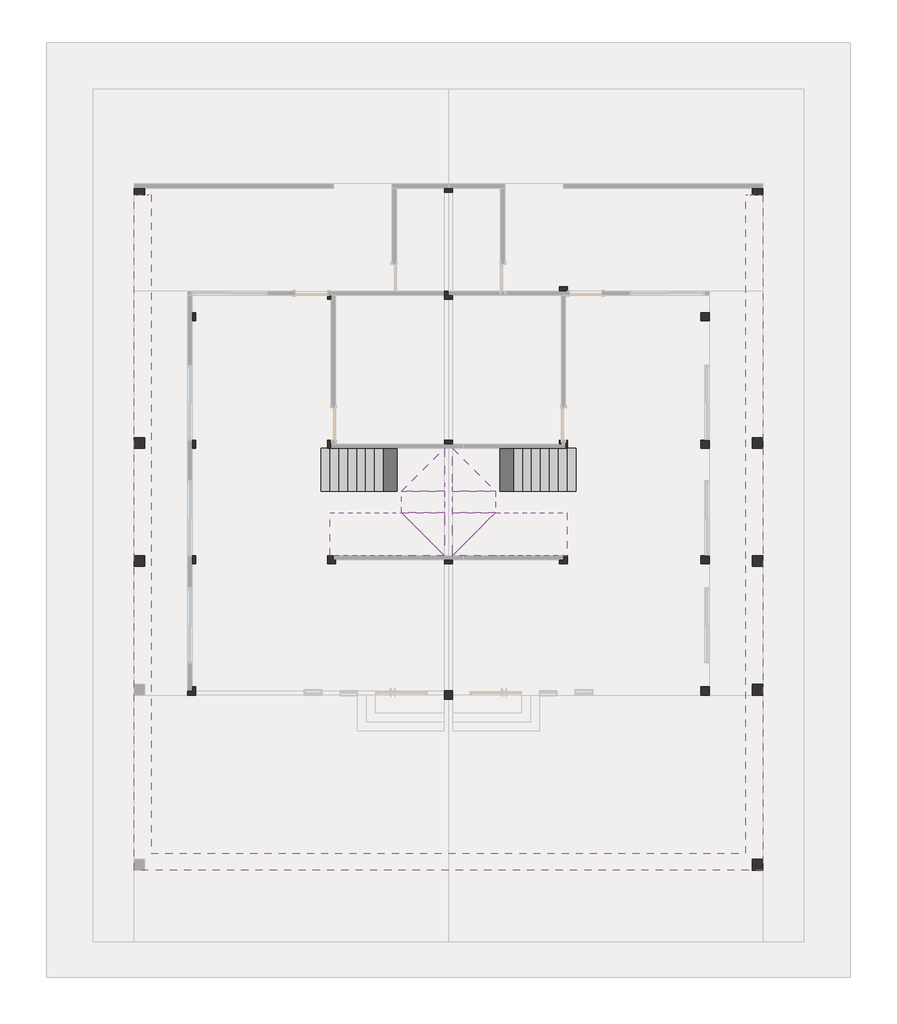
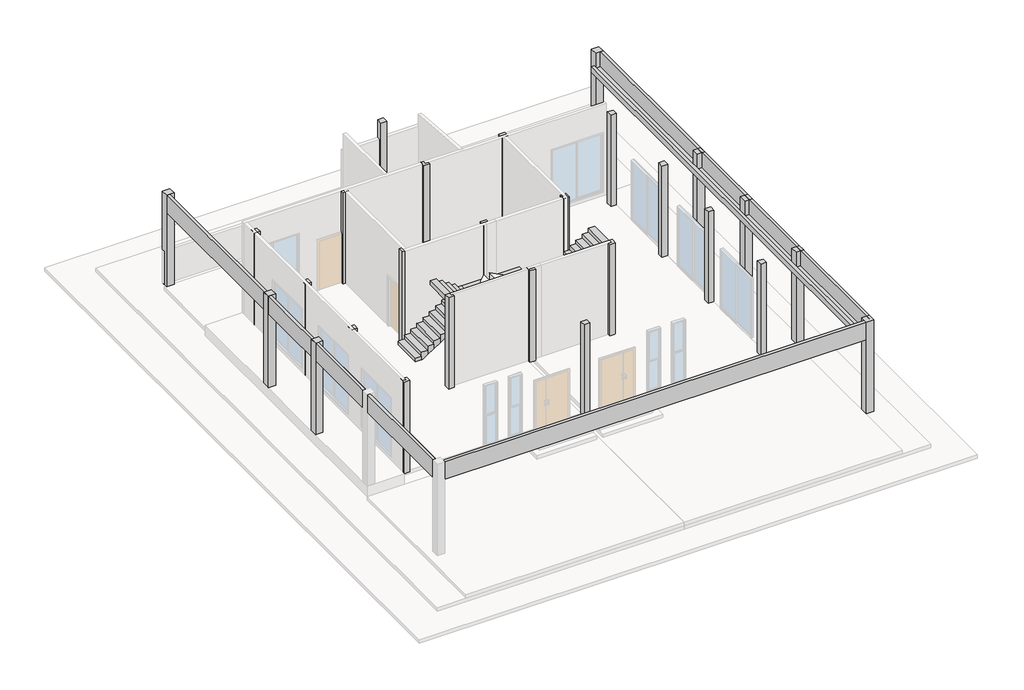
# One storey, part 2 of 2: 27 columns, 6 stair flights, 4 slabs, 1 proxy.
"""IFC4 building model written with IfcOpenShell, lengths in millimetres."""

from ifc_helpers import new_model, si_unit, origin, place, context, project, spatial, faceted_brep, transform, mapped, element, save
from components import generic_models_e7bdc071, z1_a591984b, z1_a0f7b782, z2_c92565be, z2_bccf5c95

model = new_model("IFC4")

# Units and contexts
model_context = context("Model", 3, world=origin())
ifc_project = project(units=[si_unit("LENGTHUNIT", "METRE", prefix="MILLI")], contexts=[model_context])

# Site, building, storey
site = spatial("IfcSite", under=ifc_project)
building = spatial("IfcBuilding", under=site)
storey = spatial("IfcBuildingStorey", under=building, Name="标高 1", Elevation=0.0)

# Proxy
placement = place(None, origin())
generic_models_shape = generic_models_e7bdc071(model_context)
element("IfcBuildingElementProxy", 1, Name="常规模型 1 : 常规模型 1", ObjectType="常规模型 1 : 常规模型 1", at=placement, inside=storey, context=model_context, shape_type="MappedRepresentation", body=[
    mapped(generic_models_shape, transform((0.0, 0.0, 0.0), x_axis=(1.0, 0.0, 0.0), y_axis=(0.0, 1.0, 0.0), z_axis=(0.0, 0.0, 1.0))),
])

# Columns
z1_shape = z1_a591984b(model_context)
element("IfcColumn", 2, ObjectType="混凝土 - 矩形 - 柱 : Z1", at=placement, inside=storey, context=model_context, shape_type="MappedRepresentation", body=[
    mapped(z1_shape, transform((-7795.3991115, 3421.4406182, 0.0), x_axis=(1.0, 0.0, 0.0), y_axis=(0.0, 1.0, 0.0), z_axis=(0.0, 0.0, 1.0))),
])
element("IfcColumn", 3, ObjectType="混凝土 - 矩形 - 柱 : Z1", at=placement, inside=storey, context=model_context, shape_type="MappedRepresentation", body=[
    mapped(z1_shape, transform((-7795.3991115, 6721.4406182, 0.0), x_axis=(1.0, 0.0, 0.0), y_axis=(0.0, 1.0, 0.0), z_axis=(0.0, 0.0, 1.0))),
])
element("IfcColumn", 4, ObjectType="混凝土 - 矩形 - 柱 : Z1", at=placement, inside=storey, context=model_context, shape_type="MappedRepresentation", body=[
    mapped(z1_shape, transform((-7795.3991115, 13821.4406182, 0.0), x_axis=(1.0, 0.0, 0.0), y_axis=(0.0, 1.0, 0.0), z_axis=(0.0, 0.0, 1.0))),
])
z1_2_shape = z1_a0f7b782(model_context)
element("IfcColumn", 5, ObjectType="混凝土 - 矩形 - 柱 : Z1", at=placement, inside=storey, context=model_context, shape_type="MappedRepresentation", body=[
    mapped(z1_2_shape, transform((9504.6008885, -5078.5593818, 0.0), x_axis=(-1.0, 0.0, 0.0), y_axis=(0.0, -1.0, 0.0), z_axis=(0.0, 0.0, 1.0))),
])
element("IfcColumn", 6, ObjectType="混凝土 - 矩形 - 柱 : Z1", at=placement, inside=storey, context=model_context, shape_type="MappedRepresentation", body=[
    mapped(z1_2_shape, transform((9504.6008885, -178.5593818, 0.0), x_axis=(-1.0, 0.0, 0.0), y_axis=(0.0, -1.0, 0.0), z_axis=(0.0, 0.0, 1.0))),
])
element("IfcColumn", 7, ObjectType="混凝土 - 矩形 - 柱 : Z1", at=placement, inside=storey, context=model_context, shape_type="MappedRepresentation", body=[
    mapped(z1_2_shape, transform((9504.6008885, 3421.4406182, 0.0), x_axis=(-1.0, 0.0, 0.0), y_axis=(0.0, -1.0, 0.0), z_axis=(0.0, 0.0, 1.0))),
])
element("IfcColumn", 8, ObjectType="混凝土 - 矩形 - 柱 : Z1", at=placement, inside=storey, context=model_context, shape_type="MappedRepresentation", body=[
    mapped(z1_2_shape, transform((9504.6008885, 6721.4406182, 0.0), x_axis=(-1.0, 0.0, 0.0), y_axis=(0.0, -1.0, 0.0), z_axis=(0.0, 0.0, 1.0))),
])
element("IfcColumn", 9, ObjectType="混凝土 - 矩形 - 柱 : Z1", at=placement, inside=storey, context=model_context, shape_type="MappedRepresentation", body=[
    mapped(z1_2_shape, transform((9504.6008885, 13821.4406182, 0.0), x_axis=(-1.0, 0.0, 0.0), y_axis=(0.0, -1.0, 0.0), z_axis=(0.0, 0.0, 1.0))),
])
z2_shape = z2_c92565be(model_context)
element("IfcColumn", 10, ObjectType="混凝土 - 矩形 - 柱 : Z2", at=placement, inside=storey, context=model_context, shape_type="MappedRepresentation", body=[
    mapped(z2_shape, transform((-6330.3991115, -213.5593818, 0.0), x_axis=(1.0, 0.0, 0.0), y_axis=(0.0, 1.0, 0.0), z_axis=(0.0, 0.0, 1.0))),
])
element("IfcColumn", 11, ObjectType="混凝土 - 矩形 - 柱 : Z2", at=placement, inside=storey, context=model_context, shape_type="MappedRepresentation", body=[
    mapped(z2_shape, transform((-6330.3991115, 3456.4406182, 0.0), x_axis=(1.0, 0.0, 0.0), y_axis=(0.0, 1.0, 0.0), z_axis=(0.0, 0.0, 1.0))),
])
element("IfcColumn", 12, ObjectType="混凝土 - 矩形 - 柱 : Z2", at=placement, inside=storey, context=model_context, shape_type="MappedRepresentation", body=[
    mapped(z2_shape, transform((-6330.3991115, 6686.4406182, 0.0), x_axis=(1.0, 0.0, 0.0), y_axis=(0.0, 1.0, 0.0), z_axis=(0.0, 0.0, 1.0))),
])
element("IfcColumn", 13, ObjectType="混凝土 - 矩形 - 柱 : Z2", at=placement, inside=storey, context=model_context, shape_type="MappedRepresentation", body=[
    mapped(z2_shape, transform((-6330.3991115, 10256.4406182, 0.0), x_axis=(1.0, 0.0, 0.0), y_axis=(0.0, 1.0, 0.0), z_axis=(0.0, 0.0, 1.0))),
])
element("IfcColumn", 14, ObjectType="混凝土 - 矩形 - 柱 : Z2", at=placement, inside=storey, context=model_context, shape_type="MappedRepresentation", body=[
    mapped(z2_shape, transform((-2420.3991115, 3456.4406182, 0.0), x_axis=(1.0, 0.0, 0.0), y_axis=(0.0, 1.0, 0.0), z_axis=(0.0, 0.0, 1.0))),
])
element("IfcColumn", 15, ObjectType="混凝土 - 矩形 - 柱 : Z2", at=placement, inside=storey, context=model_context, shape_type="MappedRepresentation", body=[
    mapped(z2_shape, transform((-2420.3991115, 6686.4406182, 0.0), x_axis=(1.0, 0.0, 0.0), y_axis=(0.0, 1.0, 0.0), z_axis=(0.0, 0.0, 1.0))),
])
element("IfcColumn", 16, ObjectType="混凝土 - 矩形 - 柱 : Z2", at=placement, inside=storey, context=model_context, shape_type="MappedRepresentation", body=[
    mapped(z2_shape, transform((-2420.3991115, 10856.4406182, 0.0), x_axis=(1.0, 0.0, 0.0), y_axis=(0.0, 1.0, 0.0), z_axis=(0.0, 0.0, 1.0))),
])
element("IfcColumn", 17, ObjectType="混凝土 - 矩形 - 柱 : Z2", at=placement, inside=storey, context=model_context, shape_type="MappedRepresentation", body=[
    mapped(z2_shape, transform((854.6008885, -328.5593818, 0.0), x_axis=(1.0, 0.0, 0.0), y_axis=(0.0, 1.0, 0.0), z_axis=(0.0, 0.0, 1.0))),
])
element("IfcColumn", 18, ObjectType="混凝土 - 矩形 - 柱 : Z2", at=placement, inside=storey, context=model_context, shape_type="MappedRepresentation", body=[
    mapped(z2_shape, transform((854.6008885, 3456.4406182, 0.0), x_axis=(1.0, 0.0, 0.0), y_axis=(0.0, 1.0, 0.0), z_axis=(0.0, 0.0, 1.0))),
])
element("IfcColumn", 19, ObjectType="混凝土 - 矩形 - 柱 : Z2", at=placement, inside=storey, context=model_context, shape_type="MappedRepresentation", body=[
    mapped(z2_shape, transform((854.6008885, 6686.4406182, 0.0), x_axis=(1.0, 0.0, 0.0), y_axis=(0.0, 1.0, 0.0), z_axis=(0.0, 0.0, 1.0))),
])
element("IfcColumn", 20, ObjectType="混凝土 - 矩形 - 柱 : Z2", at=placement, inside=storey, context=model_context, shape_type="MappedRepresentation", body=[
    mapped(z2_shape, transform((854.6008885, 10856.4406182, 0.0), x_axis=(1.0, 0.0, 0.0), y_axis=(0.0, 1.0, 0.0), z_axis=(0.0, 0.0, 1.0))),
])
element("IfcColumn", 21, ObjectType="混凝土 - 矩形 - 柱 : Z2", at=placement, inside=storey, context=model_context, shape_type="MappedRepresentation", body=[
    mapped(z2_shape, transform((854.6008885, 13856.4406182, 0.0), x_axis=(1.0, 0.0, 0.0), y_axis=(0.0, 1.0, 0.0), z_axis=(0.0, 0.0, 1.0))),
])
z2_2_shape = z2_bccf5c95(model_context)
element("IfcColumn", 22, ObjectType="混凝土 - 矩形 - 柱 : Z2", at=placement, inside=storey, context=model_context, shape_type="MappedRepresentation", body=[
    mapped(z2_2_shape, transform((8039.6008885, -213.5593818, 0.0), x_axis=(-1.0, 0.0, 0.0), y_axis=(0.0, -1.0, 0.0), z_axis=(0.0, 0.0, 1.0))),
])
element("IfcColumn", 23, ObjectType="混凝土 - 矩形 - 柱 : Z2", at=placement, inside=storey, context=model_context, shape_type="MappedRepresentation", body=[
    mapped(z2_2_shape, transform((8039.6008885, 3456.4406182, 0.0), x_axis=(-1.0, 0.0, 0.0), y_axis=(0.0, -1.0, 0.0), z_axis=(0.0, 0.0, 1.0))),
])
element("IfcColumn", 24, ObjectType="混凝土 - 矩形 - 柱 : Z2", at=placement, inside=storey, context=model_context, shape_type="MappedRepresentation", body=[
    mapped(z2_2_shape, transform((8039.6008885, 6686.4406182, 0.0), x_axis=(-1.0, 0.0, 0.0), y_axis=(0.0, -1.0, 0.0), z_axis=(0.0, 0.0, 1.0))),
])
element("IfcColumn", 25, ObjectType="混凝土 - 矩形 - 柱 : Z2", at=placement, inside=storey, context=model_context, shape_type="MappedRepresentation", body=[
    mapped(z2_2_shape, transform((8039.6008885, 10256.4406182, 0.0), x_axis=(-1.0, 0.0, 0.0), y_axis=(0.0, -1.0, 0.0), z_axis=(0.0, 0.0, 1.0))),
])
element("IfcColumn", 26, ObjectType="混凝土 - 矩形 - 柱 : Z2", at=placement, inside=storey, context=model_context, shape_type="MappedRepresentation", body=[
    mapped(z2_2_shape, transform((4074.6008885, 3456.4406182, 0.0), x_axis=(-1.0, 0.0, 0.0), y_axis=(0.0, -1.0, 0.0), z_axis=(0.0, 0.0, 1.0))),
])
element("IfcColumn", 27, ObjectType="混凝土 - 矩形 - 柱 : Z2", at=placement, inside=storey, context=model_context, shape_type="MappedRepresentation", body=[
    mapped(z2_2_shape, transform((4074.6008885, 6686.4406182, 0.0), x_axis=(-1.0, 0.0, 0.0), y_axis=(0.0, -1.0, 0.0), z_axis=(0.0, 0.0, 1.0))),
])
element("IfcColumn", 28, ObjectType="混凝土 - 矩形 - 柱 : Z2", at=placement, inside=storey, context=model_context, shape_type="MappedRepresentation", body=[
    mapped(z2_2_shape, transform((4074.6008885, 10971.4406182, 0.0), x_axis=(-1.0, 0.0, 0.0), y_axis=(0.0, -1.0, 0.0), z_axis=(0.0, 0.0, 1.0))),
])

# Slabs
element("IfcSlab", 29, ObjectType="300mm 厚度", at=placement, inside=storey, context=model_context, shape_type="Brep", body=[
    faceted_brep([(-460.3991115, 5371.4406182, 1787.5), (739.6008885, 5371.4406182, 1787.5), (739.6008885, 5610.3480629, 1787.5), (739.6008885, 6571.4406182, 1787.5), (-460.3991115, 5371.4406182, 1616.9081992), (-460.3991115, 5371.4406182, 1462.5), (-460.3991115, 5371.4406182, 1283.5970934), (-165.9331013, 5371.4406182, 1475.0), (-165.9331013, 5371.4406182, 1616.9081992), (739.6008885, 5371.4406182, 1616.9081992), (739.6008885, 5610.3480629, 1487.5), (739.6008885, 6571.4406182, 1487.5), (-165.9331013, 5665.9066284, 1475.0), (-165.9331013, 5665.9066284, 1487.5), (-165.9331013, 5610.3480629, 1487.5)], [[[0, 1, 2, 3]], [[1, 0, 4, 5, 6, 7, 8, 9]], [[1, 9, 10, 11, 3, 2]], [[12, 7, 6]], [[7, 12, 13, 14, 8]], [[14, 13, 11, 10]], [[14, 10, 9, 8]], [[0, 3, 11, 13, 12, 6, 5, 4]]]),
])
element("IfcSlab", 30, ObjectType="300mm 厚度", at=placement, inside=storey, context=model_context, shape_type="Brep", body=[
    faceted_brep([(739.6008885, 4771.4406182, 2275.0), (-460.3991115, 4771.4406182, 2275.0), (-399.3065562, 4710.3480629, 2275.0), (739.6008885, 3571.4406182, 2275.0), (739.6008885, 4710.3480629, 2275.0), (739.6008885, 4771.4406182, 2112.5), (739.6008885, 4771.4406182, 1941.9081992), (-460.3991115, 4771.4406182, 1941.9081992), (739.6008885, 3571.4406182, 1975.0), (739.6008885, 4710.3480629, 1975.0), (-399.3065562, 4710.3480629, 1975.0)], [[[0, 1, 2, 3, 4]], [[1, 0, 5, 6, 7]], [[3, 8, 9, 6, 5, 0, 4]], [[9, 10, 7, 6]], [[10, 9, 8]], [[2, 1, 7, 10, 8, 3]]]),
])
element("IfcSlab", 31, ObjectType="300mm 厚度", at=placement, inside=storey, context=model_context, shape_type="Brep", body=[
    faceted_brep([(2169.6008885, 5371.4406182, 1787.5), (969.6008885, 6571.4406182, 1787.5), (969.6008885, 5610.3480629, 1787.5), (969.6008885, 5371.4406182, 1787.5), (969.6008885, 5371.4406182, 1616.9081992), (1875.1348783, 5371.4406182, 1616.9081992), (1875.1348783, 5371.4406182, 1475.0), (2169.6008885, 5371.4406182, 1283.5970934), (2169.6008885, 5371.4406182, 1462.5), (2169.6008885, 5371.4406182, 1616.9081992), (969.6008885, 6571.4406182, 1487.5), (969.6008885, 5610.3480629, 1487.5), (1875.1348783, 5665.9066284, 1475.0), (1875.1348783, 5610.3480629, 1487.5), (1875.1348783, 5665.9066284, 1487.5)], [[[0, 1, 2, 3]], [[0, 3, 4, 5, 6, 7, 8, 9]], [[1, 10, 11, 4, 3, 2]], [[6, 12, 7]], [[12, 6, 5, 13, 14]], [[14, 13, 11, 10]], [[11, 13, 5, 4]], [[1, 0, 9, 8, 7, 12, 14, 10]]]),
])
element("IfcSlab", 32, ObjectType="300mm 厚度", at=placement, inside=storey, context=model_context, shape_type="Brep", body=[
    faceted_brep([(2169.6008885, 4771.4406182, 2275.0), (969.6008885, 4771.4406182, 2275.0), (969.6008885, 4710.3480629, 2275.0), (969.6008885, 3571.4406182, 2275.0), (2108.5083332, 4710.3480629, 2275.0), (2169.6008885, 4771.4406182, 1941.9081992), (969.6008885, 4771.4406182, 1941.9081992), (969.6008885, 4771.4406182, 2112.5), (969.6008885, 4710.3480629, 1975.0), (969.6008885, 3571.4406182, 1975.0), (2108.5083332, 4710.3480629, 1975.0)], [[[0, 1, 2, 3, 4]], [[1, 0, 5, 6, 7]], [[1, 7, 6, 8, 9, 3, 2]], [[10, 8, 6, 5]], [[8, 10, 9]], [[4, 3, 9, 10, 5, 0]]]),
])

# Stair flights
element("IfcStairFlight", 33, ObjectType="150mm 结构深度", at=placement, inside=storey, context=model_context, shape_type="Brep", body=[
    faceted_brep([(-2460.3991115, 6571.4406182, 162.5), (-2710.3991115, 6571.4406182, 162.5), (-2710.3991115, 5371.4406182, 162.5), (-2460.3991115, 5371.4406182, 162.5), (-2460.3991115, 6571.4406182, 0.0), (-2710.3991115, 6571.4406182, 0.0), (-2710.3991115, 5371.4406182, 0.0), (-2460.3991115, 5371.4406182, 0.0), (-2210.3991115, 6571.4406182, 325.0), (-2460.3991115, 6571.4406182, 325.0), (-2460.3991115, 5371.4406182, 325.0), (-2210.3991115, 5371.4406182, 325.0), (-2210.3991115, 6571.4406182, 146.0970934), (-2435.1638705, 6571.4406182, 0.0), (-2435.1638705, 5371.4406182, 0.0), (-2210.3991115, 5371.4406182, 146.0970934), (-1960.3991115, 6571.4406182, 487.5), (-2210.3991115, 6571.4406182, 487.5), (-2210.3991115, 5371.4406182, 487.5), (-1960.3991115, 5371.4406182, 487.5), (-1960.3991115, 6571.4406182, 308.5970934), (-1960.3991115, 5371.4406182, 308.5970934), (-1710.3991115, 6571.4406182, 650.0), (-1960.3991115, 6571.4406182, 650.0), (-1960.3991115, 5371.4406182, 650.0), (-1710.3991115, 5371.4406182, 650.0), (-1710.3991115, 6571.4406182, 471.0970934), (-1710.3991115, 5371.4406182, 471.0970934), (-1460.3991115, 6571.4406182, 812.5), (-1710.3991115, 6571.4406182, 812.5), (-1710.3991115, 5371.4406182, 812.5), (-1460.3991115, 5371.4406182, 812.5), (-1460.3991115, 6571.4406182, 633.5970934), (-1460.3991115, 5371.4406182, 633.5970934), (-1210.3991115, 6571.4406182, 975.0), (-1460.3991115, 6571.4406182, 975.0), (-1460.3991115, 5371.4406182, 975.0), (-1210.3991115, 5371.4406182, 975.0), (-1210.3991115, 6571.4406182, 796.0970934), (-1210.3991115, 5371.4406182, 796.0970934), (-960.3991115, 6571.4406182, 1137.5), (-1210.3991115, 6571.4406182, 1137.5), (-1210.3991115, 5371.4406182, 1137.5), (-960.3991115, 5371.4406182, 1137.5), (-960.3991115, 6571.4406182, 958.5970934), (-960.3991115, 5371.4406182, 958.5970934), (-710.3991115, 6571.4406182, 1300.0), (-960.3991115, 6571.4406182, 1300.0), (-960.3991115, 5371.4406182, 1300.0), (-710.3991115, 5371.4406182, 1300.0), (-710.3991115, 6571.4406182, 1121.0970934), (-710.3991115, 5371.4406182, 1121.0970934), (-460.3991115, 6571.4406182, 1462.5), (-710.3991115, 6571.4406182, 1462.5), (-710.3991115, 5371.4406182, 1462.5), (-460.3991115, 5371.4406182, 1462.5), (-460.3991115, 6571.4406182, 1283.5970934), (-460.3991115, 5371.4406182, 1283.5970934), (-165.9331013, 6571.4406182, 1475.0), (-165.9331013, 5665.9066284, 1475.0), (739.6008885, 6571.4406182, 1475.0), (-460.3991115, 6571.4406182, 1625.0), (-460.3991115, 5371.4406182, 1625.0), (739.6008885, 6571.4406182, 1625.0), (-165.9331013, 6571.4406182, 1625.0), (739.6008885, 6571.4406182, 1487.5)], [[[0, 1, 2, 3]], [[1, 0, 4, 5]], [[2, 1, 5, 6]], [[3, 2, 6, 7]], [[8, 9, 10, 11]], [[4, 0, 9, 8, 12, 13]], [[0, 3, 10, 9]], [[3, 7, 14, 15, 11, 10]], [[16, 17, 18, 19]], [[17, 16, 20, 12, 8]], [[8, 11, 18, 17]], [[19, 18, 11, 15, 21]], [[22, 23, 24, 25]], [[23, 22, 26, 20, 16]], [[16, 19, 24, 23]], [[25, 24, 19, 21, 27]], [[28, 29, 30, 31]], [[29, 28, 32, 26, 22]], [[22, 25, 30, 29]], [[31, 30, 25, 27, 33]], [[34, 35, 36, 37]], [[35, 34, 38, 32, 28]], [[28, 31, 36, 35]], [[37, 36, 31, 33, 39]], [[40, 41, 42, 43]], [[41, 40, 44, 38, 34]], [[34, 37, 42, 41]], [[43, 42, 37, 39, 45]], [[46, 47, 48, 49]], [[47, 46, 50, 44, 40]], [[40, 43, 48, 47]], [[49, 48, 43, 45, 51]], [[52, 53, 54, 55]], [[53, 52, 56, 50, 46]], [[46, 49, 54, 53]], [[55, 54, 49, 51, 57]], [[5, 4, 13, 14, 7, 6]], [[58, 59, 57, 51, 45, 39, 33, 27, 21, 15, 14, 13, 12, 20, 26, 32, 38, 44, 50, 56]], [[59, 58, 60]], [[61, 62, 63, 64]], [[52, 61, 64, 63, 65, 60, 58, 56]], [[52, 55, 62, 61]], [[63, 62, 55, 57, 59, 60, 65]]]),
])
element("IfcStairFlight", 34, ObjectType="150mm 结构深度", at=placement, inside=storey, context=model_context, shape_type="Brep", body=[
    faceted_brep([(739.6008885, 5071.4406182, 1950.0), (739.6008885, 5371.4406182, 1950.0), (-460.3991115, 5371.4406182, 1950.0), (-460.3991115, 5071.4406182, 1950.0), (739.6008885, 5071.4406182, 1779.4081992), (739.6008885, 5371.4406182, 1616.9081992), (739.6008885, 5371.4406182, 1787.5), (-165.9331013, 5371.4406182, 1616.9081992), (-460.3991115, 5371.4406182, 1616.9081992), (-460.3991115, 5071.4406182, 1779.4081992), (739.6008885, 4771.4406182, 2112.5), (739.6008885, 5071.4406182, 2112.5), (-460.3991115, 5071.4406182, 2112.5), (-460.3991115, 4771.4406182, 2112.5), (739.6008885, 4771.4406182, 1941.9081992), (-460.3991115, 4771.4406182, 1941.9081992)], [[[0, 1, 2, 3]], [[1, 0, 4, 5, 6]], [[2, 1, 6, 5, 7, 8]], [[3, 2, 8, 9]], [[10, 11, 12, 13]], [[11, 10, 14, 4, 0]], [[12, 11, 0, 3]], [[13, 12, 3, 9, 15]], [[10, 13, 15, 14]], [[5, 4, 14, 15, 9, 8, 7]]]),
])
element("IfcStairFlight", 35, ObjectType="150mm 结构深度", at=placement, inside=storey, context=model_context, shape_type="Brep", body=[
    faceted_brep([(-460.3991115, 3571.4406182, 2437.5), (739.6008885, 3571.4406182, 2437.5), (-399.3065562, 4710.3480629, 2437.5), (-460.3991115, 4771.4406182, 2437.5), (-460.3991115, 3571.4406182, 2287.5), (739.6008885, 3571.4406182, 2287.5), (-399.3065562, 4710.3480629, 2287.5), (-460.3991115, 4771.4406182, 2287.5), (-504.8651217, 3571.4406182, 2287.5), (-504.8651217, 4771.4406182, 2287.5), (-460.3991115, 3571.4406182, 2600.0), (-460.3991115, 4771.4406182, 2600.0), (-504.8651217, 4771.4406182, 2600.0), (-710.3991115, 4771.4406182, 2600.0), (-710.3991115, 3571.4406182, 2600.0), (-504.8651217, 3571.4406182, 2600.0), (-710.3991115, 3571.4406182, 2421.0970934), (-710.3991115, 4771.4406182, 2421.0970934), (-960.3991115, 3571.4406182, 2762.5), (-710.3991115, 3571.4406182, 2762.5), (-710.3991115, 4771.4406182, 2762.5), (-960.3991115, 4771.4406182, 2762.5), (-960.3991115, 3571.4406182, 2583.5970934), (-960.3991115, 4771.4406182, 2583.5970934), (-1210.3991115, 3571.4406182, 2925.0), (-960.3991115, 3571.4406182, 2925.0), (-960.3991115, 4771.4406182, 2925.0), (-1210.3991115, 4771.4406182, 2925.0), (-1210.3991115, 3571.4406182, 2746.0970934), (-1210.3991115, 4771.4406182, 2746.0970934), (-1460.3991115, 3571.4406182, 3087.5), (-1210.3991115, 3571.4406182, 3087.5), (-1210.3991115, 4771.4406182, 3087.5), (-1460.3991115, 4771.4406182, 3087.5), (-1460.3991115, 3571.4406182, 2908.5970934), (-1460.3991115, 4771.4406182, 2908.5970934), (-1710.3991115, 3571.4406182, 3250.0), (-1460.3991115, 3571.4406182, 3250.0), (-1460.3991115, 4771.4406182, 3250.0), (-1710.3991115, 4771.4406182, 3250.0), (-1710.3991115, 3571.4406182, 3071.0970934), (-1710.3991115, 4771.4406182, 3071.0970934), (-1960.3991115, 3571.4406182, 3412.5), (-1710.3991115, 3571.4406182, 3412.5), (-1710.3991115, 4771.4406182, 3412.5), (-1960.3991115, 4771.4406182, 3412.5), (-1960.3991115, 3571.4406182, 3233.5970934), (-1960.3991115, 4771.4406182, 3233.5970934), (-2210.3991115, 3571.4406182, 3575.0), (-1960.3991115, 3571.4406182, 3575.0), (-1960.3991115, 4771.4406182, 3575.0), (-2210.3991115, 4771.4406182, 3575.0), (-2210.3991115, 3571.4406182, 3396.0970934), (-2210.3991115, 4771.4406182, 3396.0970934), (-2460.3991115, 3571.4406182, 3737.5), (-2210.3991115, 3571.4406182, 3737.5), (-2210.3991115, 4771.4406182, 3737.5), (-2460.3991115, 4771.4406182, 3737.5), (-2460.3991115, 3571.4406182, 3558.5970934), (-2460.3991115, 4771.4406182, 3558.5970934)], [[[0, 1, 2, 3]], [[1, 0, 4, 5]], [[2, 1, 5, 6, 7, 3]], [[8, 9, 7, 6, 5, 4]], [[10, 11, 12, 13, 14, 15]], [[0, 10, 15, 14, 16, 8, 4]], [[11, 10, 0, 3]], [[11, 3, 7, 9, 17, 13, 12]], [[18, 19, 20, 21]], [[19, 18, 22, 16, 14]], [[20, 19, 14, 13]], [[21, 20, 13, 17, 23]], [[24, 25, 26, 27]], [[25, 24, 28, 22, 18]], [[26, 25, 18, 21]], [[27, 26, 21, 23, 29]], [[30, 31, 32, 33]], [[31, 30, 34, 28, 24]], [[32, 31, 24, 27]], [[33, 32, 27, 29, 35]], [[36, 37, 38, 39]], [[37, 36, 40, 34, 30]], [[38, 37, 30, 33]], [[39, 38, 33, 35, 41]], [[42, 43, 44, 45]], [[43, 42, 46, 40, 36]], [[44, 43, 36, 39]], [[45, 44, 39, 41, 47]], [[48, 49, 50, 51]], [[49, 48, 52, 46, 42]], [[50, 49, 42, 45]], [[51, 50, 45, 47, 53]], [[54, 55, 56, 57]], [[55, 54, 58, 52, 48]], [[56, 55, 48, 51]], [[57, 56, 51, 53, 59]], [[54, 57, 59, 58]], [[9, 8, 16, 22, 28, 34, 40, 46, 52, 58, 59, 53, 47, 41, 35, 29, 23, 17]]]),
])
element("IfcStairFlight", 36, ObjectType="150mm 结构深度", at=placement, inside=storey, context=model_context, shape_type="Brep", body=[
    faceted_brep([(4169.6008885, 5371.4406182, 162.5), (4419.6008885, 5371.4406182, 162.5), (4419.6008885, 6571.4406182, 162.5), (4169.6008885, 6571.4406182, 162.5), (4419.6008885, 6571.4406182, 0.0), (4169.6008885, 6571.4406182, 0.0), (4419.6008885, 5371.4406182, 0.0), (4169.6008885, 5371.4406182, 0.0), (3919.6008885, 5371.4406182, 325.0), (4169.6008885, 5371.4406182, 325.0), (4169.6008885, 6571.4406182, 325.0), (3919.6008885, 6571.4406182, 325.0), (4144.3656476, 6571.4406182, 0.0), (3919.6008885, 6571.4406182, 146.0970934), (3919.6008885, 5371.4406182, 146.0970934), (4144.3656476, 5371.4406182, 0.0), (3669.6008885, 5371.4406182, 487.5), (3919.6008885, 5371.4406182, 487.5), (3919.6008885, 6571.4406182, 487.5), (3669.6008885, 6571.4406182, 487.5), (3669.6008885, 6571.4406182, 308.5970934), (3669.6008885, 5371.4406182, 308.5970934), (3419.6008885, 5371.4406182, 650.0), (3669.6008885, 5371.4406182, 650.0), (3669.6008885, 6571.4406182, 650.0), (3419.6008885, 6571.4406182, 650.0), (3419.6008885, 6571.4406182, 471.0970934), (3419.6008885, 5371.4406182, 471.0970934), (3169.6008885, 5371.4406182, 812.5), (3419.6008885, 5371.4406182, 812.5), (3419.6008885, 6571.4406182, 812.5), (3169.6008885, 6571.4406182, 812.5), (3169.6008885, 6571.4406182, 633.5970934), (3169.6008885, 5371.4406182, 633.5970934), (2919.6008885, 5371.4406182, 975.0), (3169.6008885, 5371.4406182, 975.0), (3169.6008885, 6571.4406182, 975.0), (2919.6008885, 6571.4406182, 975.0), (2919.6008885, 6571.4406182, 796.0970934), (2919.6008885, 5371.4406182, 796.0970934), (2669.6008885, 5371.4406182, 1137.5), (2919.6008885, 5371.4406182, 1137.5), (2919.6008885, 6571.4406182, 1137.5), (2669.6008885, 6571.4406182, 1137.5), (2669.6008885, 6571.4406182, 958.5970934), (2669.6008885, 5371.4406182, 958.5970934), (2419.6008885, 5371.4406182, 1300.0), (2669.6008885, 5371.4406182, 1300.0), (2669.6008885, 6571.4406182, 1300.0), (2419.6008885, 6571.4406182, 1300.0), (2419.6008885, 6571.4406182, 1121.0970934), (2419.6008885, 5371.4406182, 1121.0970934), (2169.6008885, 5371.4406182, 1462.5), (2419.6008885, 5371.4406182, 1462.5), (2419.6008885, 6571.4406182, 1462.5), (2169.6008885, 6571.4406182, 1462.5), (2169.6008885, 6571.4406182, 1283.5970934), (2169.6008885, 5371.4406182, 1283.5970934), (1875.1348783, 5665.9066284, 1475.0), (1875.1348783, 6571.4406182, 1475.0), (969.6008885, 6571.4406182, 1475.0), (2169.6008885, 5371.4406182, 1625.0), (2169.6008885, 6571.4406182, 1625.0), (1875.1348783, 6571.4406182, 1625.0), (969.6008885, 6571.4406182, 1625.0), (969.6008885, 6571.4406182, 1487.5)], [[[0, 1, 2, 3]], [[3, 2, 4, 5]], [[2, 1, 6, 4]], [[1, 0, 7, 6]], [[8, 9, 10, 11]], [[3, 5, 12, 13, 11, 10]], [[0, 3, 10, 9]], [[7, 0, 9, 8, 14, 15]], [[16, 17, 18, 19]], [[19, 18, 11, 13, 20]], [[8, 11, 18, 17]], [[17, 16, 21, 14, 8]], [[22, 23, 24, 25]], [[25, 24, 19, 20, 26]], [[16, 19, 24, 23]], [[23, 22, 27, 21, 16]], [[28, 29, 30, 31]], [[31, 30, 25, 26, 32]], [[22, 25, 30, 29]], [[29, 28, 33, 27, 22]], [[34, 35, 36, 37]], [[37, 36, 31, 32, 38]], [[28, 31, 36, 35]], [[35, 34, 39, 33, 28]], [[40, 41, 42, 43]], [[43, 42, 37, 38, 44]], [[34, 37, 42, 41]], [[41, 40, 45, 39, 34]], [[46, 47, 48, 49]], [[49, 48, 43, 44, 50]], [[40, 43, 48, 47]], [[47, 46, 51, 45, 40]], [[52, 53, 54, 55]], [[55, 54, 49, 50, 56]], [[46, 49, 54, 53]], [[53, 52, 57, 51, 46]], [[6, 7, 15, 12, 5, 4]], [[58, 59, 56, 50, 44, 38, 32, 26, 20, 13, 12, 15, 14, 21, 27, 33, 39, 45, 51, 57]], [[59, 58, 60]], [[61, 62, 63, 64]], [[62, 55, 56, 59, 60, 65, 64, 63]], [[52, 55, 62, 61]], [[61, 64, 65, 60, 58, 57, 52]]]),
])
element("IfcStairFlight", 37, ObjectType="150mm 结构深度", at=placement, inside=storey, context=model_context, shape_type="Brep", body=[
    faceted_brep([(2169.6008885, 5071.4406182, 1950.0), (2169.6008885, 5371.4406182, 1950.0), (969.6008885, 5371.4406182, 1950.0), (969.6008885, 5071.4406182, 1950.0), (969.6008885, 5371.4406182, 1787.5), (969.6008885, 5371.4406182, 1616.9081992), (969.6008885, 5071.4406182, 1779.4081992), (2169.6008885, 5371.4406182, 1616.9081992), (1875.1348783, 5371.4406182, 1616.9081992), (2169.6008885, 5071.4406182, 1779.4081992), (2169.6008885, 4771.4406182, 2112.5), (2169.6008885, 5071.4406182, 2112.5), (969.6008885, 5071.4406182, 2112.5), (969.6008885, 4771.4406182, 2112.5), (969.6008885, 4771.4406182, 1941.9081992), (2169.6008885, 4771.4406182, 1941.9081992)], [[[0, 1, 2, 3]], [[3, 2, 4, 5, 6]], [[2, 1, 7, 8, 5, 4]], [[1, 0, 9, 7]], [[10, 11, 12, 13]], [[13, 12, 3, 6, 14]], [[12, 11, 0, 3]], [[11, 10, 15, 9, 0]], [[10, 13, 14, 15]], [[7, 9, 15, 14, 6, 5, 8]]]),
])
element("IfcStairFlight", 38, ObjectType="150mm 结构深度", at=placement, inside=storey, context=model_context, shape_type="Brep", body=[
    faceted_brep([(969.6008885, 3571.4406182, 2437.5), (2169.6008885, 3571.4406182, 2437.5), (2169.6008885, 4771.4406182, 2437.5), (2108.5083332, 4710.3480629, 2437.5), (969.6008885, 3571.4406182, 2287.5), (2169.6008885, 3571.4406182, 2287.5), (2169.6008885, 4771.4406182, 2287.5), (2108.5083332, 4710.3480629, 2287.5), (2214.0668987, 4771.4406182, 2287.5), (2214.0668987, 3571.4406182, 2287.5), (2169.6008885, 4771.4406182, 2600.0), (2169.6008885, 3571.4406182, 2600.0), (2214.0668987, 3571.4406182, 2600.0), (2419.6008885, 3571.4406182, 2600.0), (2419.6008885, 4771.4406182, 2600.0), (2214.0668987, 4771.4406182, 2600.0), (2419.6008885, 3571.4406182, 2421.0970934), (2419.6008885, 4771.4406182, 2421.0970934), (2669.6008885, 4771.4406182, 2762.5), (2419.6008885, 4771.4406182, 2762.5), (2419.6008885, 3571.4406182, 2762.5), (2669.6008885, 3571.4406182, 2762.5), (2669.6008885, 3571.4406182, 2583.5970934), (2669.6008885, 4771.4406182, 2583.5970934), (2919.6008885, 4771.4406182, 2925.0), (2669.6008885, 4771.4406182, 2925.0), (2669.6008885, 3571.4406182, 2925.0), (2919.6008885, 3571.4406182, 2925.0), (2919.6008885, 3571.4406182, 2746.0970934), (2919.6008885, 4771.4406182, 2746.0970934), (3169.6008885, 4771.4406182, 3087.5), (2919.6008885, 4771.4406182, 3087.5), (2919.6008885, 3571.4406182, 3087.5), (3169.6008885, 3571.4406182, 3087.5), (3169.6008885, 3571.4406182, 2908.5970934), (3169.6008885, 4771.4406182, 2908.5970934), (3419.6008885, 4771.4406182, 3250.0), (3169.6008885, 4771.4406182, 3250.0), (3169.6008885, 3571.4406182, 3250.0), (3419.6008885, 3571.4406182, 3250.0), (3419.6008885, 3571.4406182, 3071.0970934), (3419.6008885, 4771.4406182, 3071.0970934), (3669.6008885, 4771.4406182, 3412.5), (3419.6008885, 4771.4406182, 3412.5), (3419.6008885, 3571.4406182, 3412.5), (3669.6008885, 3571.4406182, 3412.5), (3669.6008885, 3571.4406182, 3233.5970934), (3669.6008885, 4771.4406182, 3233.5970934), (3919.6008885, 4771.4406182, 3575.0), (3669.6008885, 4771.4406182, 3575.0), (3669.6008885, 3571.4406182, 3575.0), (3919.6008885, 3571.4406182, 3575.0), (3919.6008885, 3571.4406182, 3396.0970934), (3919.6008885, 4771.4406182, 3396.0970934), (4169.6008885, 4771.4406182, 3737.5), (3919.6008885, 4771.4406182, 3737.5), (3919.6008885, 3571.4406182, 3737.5), (4169.6008885, 3571.4406182, 3737.5), (4169.6008885, 3571.4406182, 3558.5970934), (4169.6008885, 4771.4406182, 3558.5970934)], [[[0, 1, 2, 3]], [[1, 0, 4, 5]], [[3, 2, 6, 7, 4, 0]], [[8, 9, 5, 4, 7, 6]], [[10, 11, 12, 13, 14, 15]], [[11, 1, 5, 9, 16, 13, 12]], [[11, 10, 2, 1]], [[2, 10, 15, 14, 17, 8, 6]], [[18, 19, 20, 21]], [[21, 20, 13, 16, 22]], [[20, 19, 14, 13]], [[19, 18, 23, 17, 14]], [[24, 25, 26, 27]], [[27, 26, 21, 22, 28]], [[26, 25, 18, 21]], [[25, 24, 29, 23, 18]], [[30, 31, 32, 33]], [[33, 32, 27, 28, 34]], [[32, 31, 24, 27]], [[31, 30, 35, 29, 24]], [[36, 37, 38, 39]], [[39, 38, 33, 34, 40]], [[38, 37, 30, 33]], [[37, 36, 41, 35, 30]], [[42, 43, 44, 45]], [[45, 44, 39, 40, 46]], [[44, 43, 36, 39]], [[43, 42, 47, 41, 36]], [[48, 49, 50, 51]], [[51, 50, 45, 46, 52]], [[50, 49, 42, 45]], [[49, 48, 53, 47, 42]], [[54, 55, 56, 57]], [[57, 56, 51, 52, 58]], [[56, 55, 48, 51]], [[55, 54, 59, 53, 48]], [[54, 57, 58, 59]], [[9, 8, 17, 23, 29, 35, 41, 47, 53, 59, 58, 52, 46, 40, 34, 28, 22, 16]]]),
])

save(model, "model.ifc")
